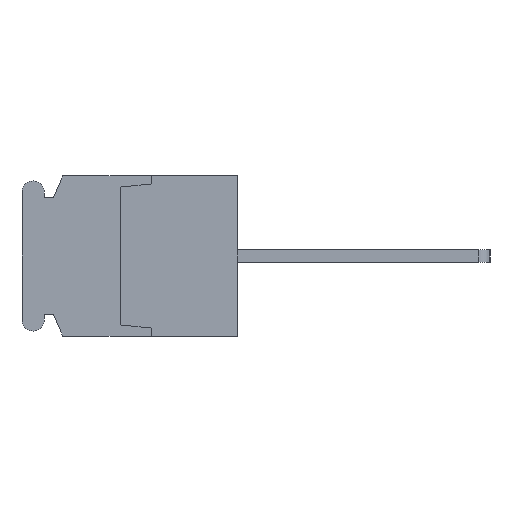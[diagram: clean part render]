
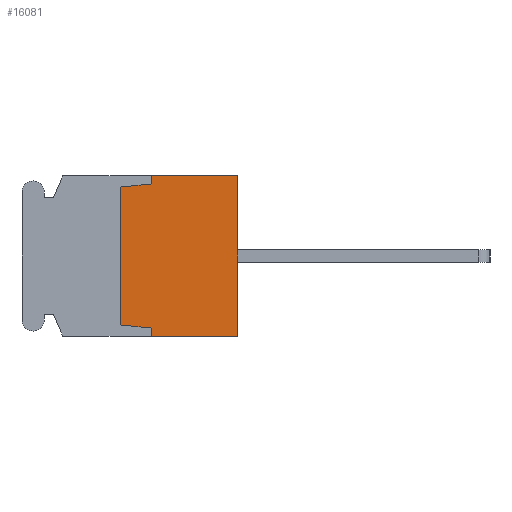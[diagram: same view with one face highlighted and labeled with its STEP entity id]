
A CAD part, left-side view. The second image highlights one B-rep face of the part: STEP entity #16081.
In plain terms, the highlighted planar face has unit normal (-1, 0, 0).
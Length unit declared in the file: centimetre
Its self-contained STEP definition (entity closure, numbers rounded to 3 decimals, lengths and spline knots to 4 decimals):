
#2030=VECTOR('',#19820,1.);
#2031=VECTOR('',#19821,1.);
#2032=VECTOR('',#19822,1.);
#2033=VECTOR('',#19823,1.);
#2034=VECTOR('',#19824,1.);
#2035=VECTOR('',#19825,1.);
#2036=VECTOR('',#19826,1.);
#2037=VECTOR('',#19827,1.);
#3812=LINE('',#24969,#2030);
#3813=LINE('',#24972,#2031);
#3814=LINE('',#24974,#2032);
#3815=LINE('',#24976,#2033);
#3816=LINE('',#24978,#2034);
#3817=LINE('',#24980,#2035);
#3818=LINE('',#24982,#2036);
#3819=LINE('',#24984,#2037);
#5498=VERTEX_POINT('',#24970);
#5499=VERTEX_POINT('',#24971);
#5500=VERTEX_POINT('',#24973);
#5501=VERTEX_POINT('',#24975);
#5502=VERTEX_POINT('',#24977);
#5503=VERTEX_POINT('',#24979);
#5504=VERTEX_POINT('',#24981);
#5505=VERTEX_POINT('',#24983);
#8010=EDGE_CURVE('',#5498,#5499,#3812,.T.);
#8011=EDGE_CURVE('',#5500,#5498,#3813,.T.);
#8012=EDGE_CURVE('',#5501,#5500,#3814,.T.);
#8013=EDGE_CURVE('',#5502,#5501,#3815,.T.);
#8014=EDGE_CURVE('',#5503,#5502,#3816,.T.);
#8015=EDGE_CURVE('',#5504,#5503,#3817,.T.);
#8016=EDGE_CURVE('',#5505,#5504,#3818,.T.);
#8017=EDGE_CURVE('',#5499,#5505,#3819,.T.);
#12182=ORIENTED_EDGE('',*,*,#8010,.F.);
#12183=ORIENTED_EDGE('',*,*,#8011,.F.);
#12184=ORIENTED_EDGE('',*,*,#8012,.F.);
#12185=ORIENTED_EDGE('',*,*,#8013,.F.);
#12186=ORIENTED_EDGE('',*,*,#8014,.F.);
#12187=ORIENTED_EDGE('',*,*,#8015,.F.);
#12188=ORIENTED_EDGE('',*,*,#8016,.F.);
#12189=ORIENTED_EDGE('',*,*,#8017,.F.);
#14149=EDGE_LOOP('',(#12182,#12183,#12184,#12185,#12186,#12187,#12188,#12189));
#15157=FACE_BOUND('',#14149,.T.);
#16081=ADVANCED_FACE('',(#15157),#16813,.F.);
#16813=PLANE('',#27551);
#19819=DIRECTION('',(1.,0.,0.));
#19820=DIRECTION('',(0.,0.,-1.));
#19821=DIRECTION('',(0.,-1.,0.));
#19822=DIRECTION('',(0.,0.,1.));
#19823=DIRECTION('',(0.,-0.995,0.1));
#19824=DIRECTION('',(0.,0.,1.));
#19825=DIRECTION('',(0.,0.995,0.1));
#19826=DIRECTION('',(0.,0.,1.));
#19827=DIRECTION('',(0.,1.,0.));
#24968=CARTESIAN_POINT('',(-1.07,0.4626,0.));
#24969=CARTESIAN_POINT('',(-1.07,0.,0.65));
#24970=CARTESIAN_POINT('',(-1.07,0.,0.65));
#24971=CARTESIAN_POINT('',(-1.07,0.,-0.65));
#24972=CARTESIAN_POINT('',(-1.07,0.7,0.65));
#24973=CARTESIAN_POINT('',(-1.07,0.7,0.65));
#24974=CARTESIAN_POINT('',(-1.07,0.7,0.585));
#24975=CARTESIAN_POINT('',(-1.07,0.7,0.585));
#24976=CARTESIAN_POINT('',(-1.07,0.95,0.56));
#24977=CARTESIAN_POINT('',(-1.07,0.95,0.56));
#24978=CARTESIAN_POINT('',(-1.07,0.95,-0.56));
#24979=CARTESIAN_POINT('',(-1.07,0.95,-0.56));
#24980=CARTESIAN_POINT('',(-1.07,0.7,-0.585));
#24981=CARTESIAN_POINT('',(-1.07,0.7,-0.585));
#24982=CARTESIAN_POINT('',(-1.07,0.7,-0.65));
#24983=CARTESIAN_POINT('',(-1.07,0.7,-0.65));
#24984=CARTESIAN_POINT('',(-1.07,0.,-0.65));
#27551=AXIS2_PLACEMENT_3D('',#24968,#19819,$);
